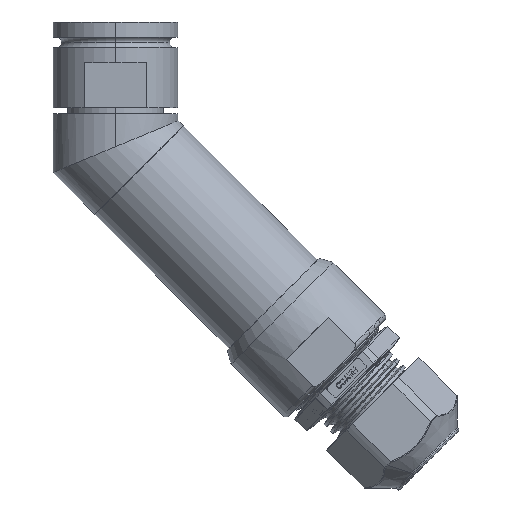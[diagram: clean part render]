
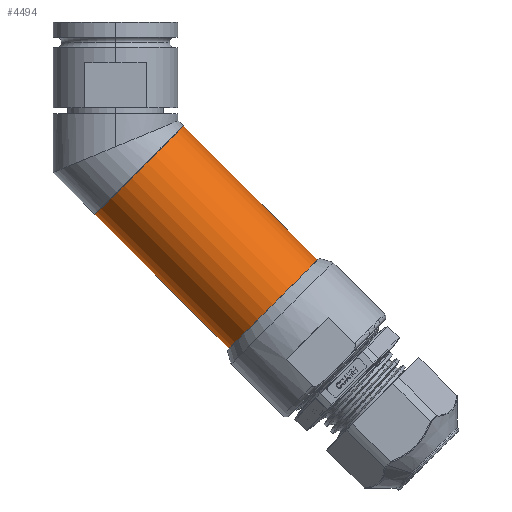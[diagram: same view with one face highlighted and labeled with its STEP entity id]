
A CAD part, left-side view. The second image highlights one B-rep face of the part: STEP entity #4494.
In plain terms, the highlighted cylindrical face has radius 13.208 mm (diameter 26.416 mm), a partial arc.
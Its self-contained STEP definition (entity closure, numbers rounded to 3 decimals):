
#1056 = CYLINDRICAL_SURFACE ( 'NONE', #15773, 13.208 ) ;
#1246 = CARTESIAN_POINT ( 'NONE',  ( 0., -5.036, -25.747 ) ) ;
#2742 = LINE ( 'NONE', #40386, #13848 ) ;
#4486 = DIRECTION ( 'NONE',  ( 0., -0.707, -0.707 ) ) ;
#4494 = ADVANCED_FACE ( 'NONE', ( #27899 ), #1056, .T. ) ;
#6161 = ORIENTED_EDGE ( 'NONE', *, *, #25282, .F. ) ;
#6702 = CARTESIAN_POINT ( 'NONE',  ( 0., -24.02, -63.41 ) ) ;
#7041 = ORIENTED_EDGE ( 'NONE', *, *, #23916, .F. ) ;
#8700 = DIRECTION ( 'NONE',  ( 0., 0.707, -0.707 ) ) ;
#11552 = ORIENTED_EDGE ( 'NONE', *, *, #12246, .F. ) ;
#12246 = EDGE_CURVE ( 'NONE', #57859, #25355, #2742, .T. ) ;
#13848 = VECTOR ( 'NONE', #34971, 1000. ) ;
#14426 = DIRECTION ( 'NONE',  ( 0., 0.707, 0.707 ) ) ;
#15773 = AXIS2_PLACEMENT_3D ( 'NONE', #28190, #55970, #19134 ) ;
#18326 = CARTESIAN_POINT ( 'NONE',  ( 0., -14.375, -16.407 ) ) ;
#19134 = DIRECTION ( 'NONE',  ( 0., -0.707, 0.707 ) ) ;
#19231 = LINE ( 'NONE', #18326, #30434 ) ;
#19615 = DIRECTION ( 'NONE',  ( 0., -0.707, 0.707 ) ) ;
#23462 = CARTESIAN_POINT ( 'NONE',  ( 0., -33.36, -54.071 ) ) ;
#23916 = EDGE_CURVE ( 'NONE', #25355, #57919, #49831, .T. ) ;
#24757 = DIRECTION ( 'NONE',  ( 0., 0.707, 0.707 ) ) ;
#25282 = EDGE_CURVE ( 'NONE', #45996, #57859, #57213, .T. ) ;
#25355 = VERTEX_POINT ( 'NONE', #34010 ) ;
#26602 = ORIENTED_EDGE ( 'NONE', *, *, #51680, .T. ) ;
#27262 = AXIS2_PLACEMENT_3D ( 'NONE', #23462, #4486, #8700 ) ;
#27899 = FACE_OUTER_BOUND ( 'NONE', #31714, .T. ) ;
#28190 = CARTESIAN_POINT ( 'NONE',  ( 0., -5.036, -25.747 ) ) ;
#30434 = VECTOR ( 'NONE', #14426, 1000. ) ;
#31714 = EDGE_LOOP ( 'NONE', ( #11552, #6161, #26602, #7041 ) ) ;
#34010 = CARTESIAN_POINT ( 'NONE',  ( 0., 4.303, -35.086 ) ) ;
#34971 = DIRECTION ( 'NONE',  ( 0., 0.707, 0.707 ) ) ;
#39329 = CARTESIAN_POINT ( 'NONE',  ( 0., -42.699, -44.731 ) ) ;
#40121 = CARTESIAN_POINT ( 'NONE',  ( 0., -14.375, -16.407 ) ) ;
#40386 = CARTESIAN_POINT ( 'NONE',  ( 0., 4.303, -35.086 ) ) ;
#45996 = VERTEX_POINT ( 'NONE', #39329 ) ;
#49831 = CIRCLE ( 'NONE', #52800, 13.208 ) ;
#51680 = EDGE_CURVE ( 'NONE', #45996, #57919, #19231, .T. ) ;
#52800 = AXIS2_PLACEMENT_3D ( 'NONE', #1246, #24757, #19615 ) ;
#55970 = DIRECTION ( 'NONE',  ( 0., 0.707, 0.707 ) ) ;
#57213 = CIRCLE ( 'NONE', #27262, 13.208 ) ;
#57859 = VERTEX_POINT ( 'NONE', #6702 ) ;
#57919 = VERTEX_POINT ( 'NONE', #40121 ) ;
